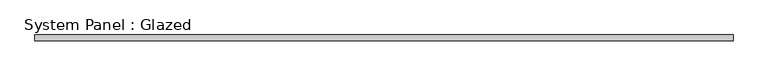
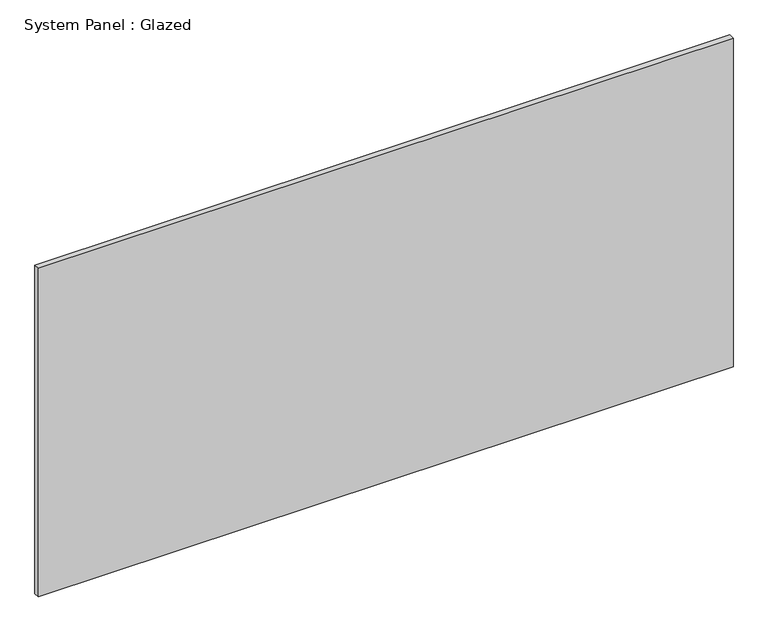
"""IFC4 building model written with IfcOpenShell, lengths in millimetres: plate geometry, System Panel : Glazed."""

from ifc_helpers import new_model, si_unit, origin, origin_with_axes, place, context, project, spatial, polyline, outline, extrude, source, transform, mapped, element, save


def system_panel_glazed_1e57f9bb(model_context):
    return source(origin(), model_context, "Body", "SweptSolid", [
        extrude(outline(polyline([(1524.0000002, 19.05), (-1524.0000002, 19.05), (-1524.0000002, 44.45), (1524.0000002, 44.45), (1524.0000002, 19.05)])), origin_with_axes(), (0.0, 0.0, 1.0), 1524.0),
    ])


if __name__ == "__main__":
    model = new_model("IFC4")
    model_context = context("Model", 3, world=origin())
    ifc_project = project(units=[si_unit("LENGTHUNIT", "METRE", prefix="MILLI")], contexts=[model_context])
    site = spatial("IfcSite", under=ifc_project)
    building = spatial("IfcBuilding", under=site)
    placement = place(None, origin())
    system_panel_glazed_shape = system_panel_glazed_1e57f9bb(model_context)
    element("IfcPlate", 1, ObjectType="System Panel : Glazed", at=placement, inside=building, context=model_context, shape_type="MappedRepresentation", body=[
        mapped(system_panel_glazed_shape, transform((0.0, 0.0, 0.0), x_axis=(1.0, 0.0, 0.0), y_axis=(0.0, 1.0, 0.0), z_axis=(0.0, 0.0, 1.0))),
    ])
    save(model, "model.ifc")
